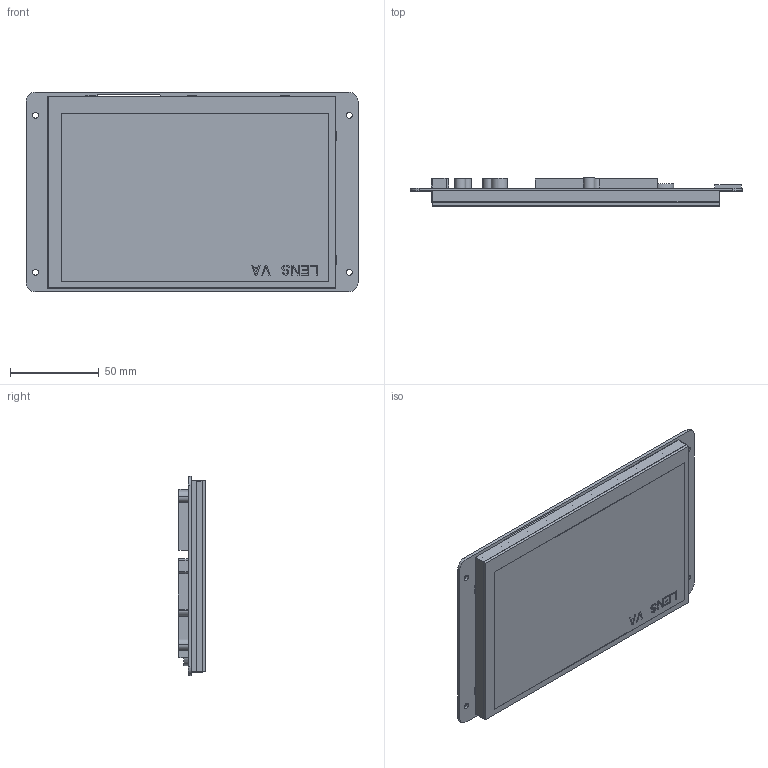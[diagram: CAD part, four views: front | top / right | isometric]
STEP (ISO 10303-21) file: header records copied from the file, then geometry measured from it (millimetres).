
FILE_DESCRIPTION((''),'2;1');
FILE_NAME('DMG12800K070-03WTC_ASM','2025-03-06T',('Administrator'),(''),'PRO/ENGINEER BY PARAMETRIC TECHNOLOGY CORPORATION, 2014320','PRO/ENGINEER BY PARAMETRIC TECHNOLOGY CORPORATION, 2014320','');
FILE_SCHEMA(('AUTOMOTIVE_DESIGN_CC2 { 1 2 10303 214 -1 1 5 2 }'));
Length unit declared in the file: millimetre
Products named in the file (5): TK070024; TM070JDHG30-00; PCB; TPC070T0085; DMG12800K070-03WTC_ASM
Assembly tree (4 placements, depth 2):
  DMG12800K070-03WTC_ASM
    TK070024
    TM070JDHG30-00
    PCB
    TPC070T0085
Bounding box: 186.94 x 15.68 x 112.14 mm (x, y, z)
Volume: 133933.4 mm3; surface area: 131305.9 mm2
Topology: 4 solids, 4 shells, 295 faces, 774 edges, 516 vertices
Faces by surface type: plane 263, cylinder 32
Entity records: 9218 total; most frequent: CARTESIAN_POINT 1594, ORIENTED_EDGE 1548, DIRECTION 1446, EDGE_CURVE 774, VECTOR 710, LINE 710, VERTEX_POINT 516, AXIS2_PLACEMENT_3D 368
